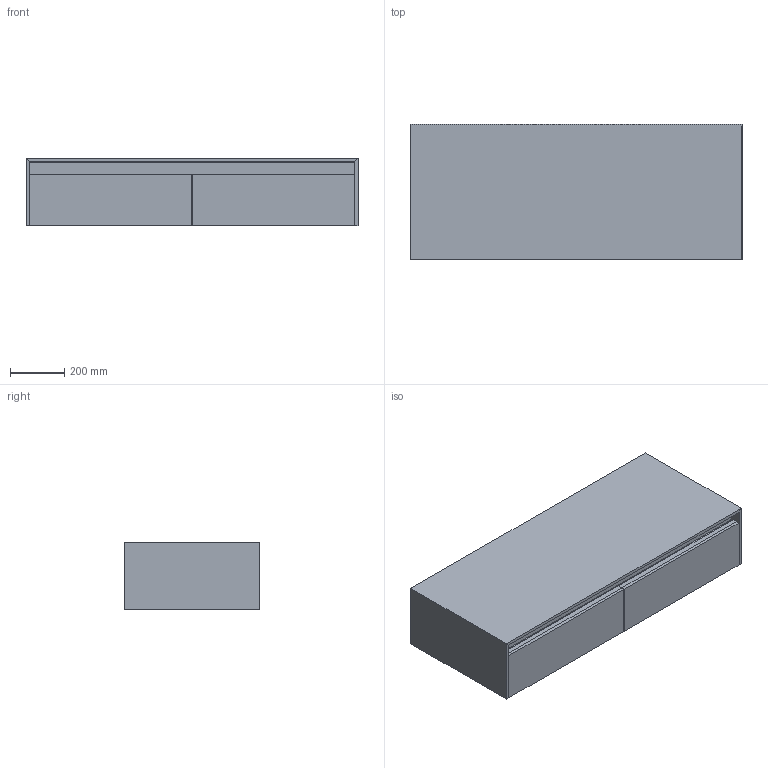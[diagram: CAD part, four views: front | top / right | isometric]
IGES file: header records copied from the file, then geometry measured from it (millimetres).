
Global section: file name: \\Archi-NAS\Comune\X GIOVANNI\MOBILI\VICTORIA\VICTORIA 7.igs; native system: Rhinoceros ( Jan 17 2018 ); preprocessor: Trout Lake IGES 012 Jan 17 2018; date: 230608.070143; units: millimetre
Bounding box: 1224 x 500 x 250 mm (x, y, z)
Surface area: 7955786.4 mm2 (no closed solid volume)
Topology: 0 solids, 0 shells, 132 faces, 552 edges, 552 vertices
Faces by surface type: bspline 132
